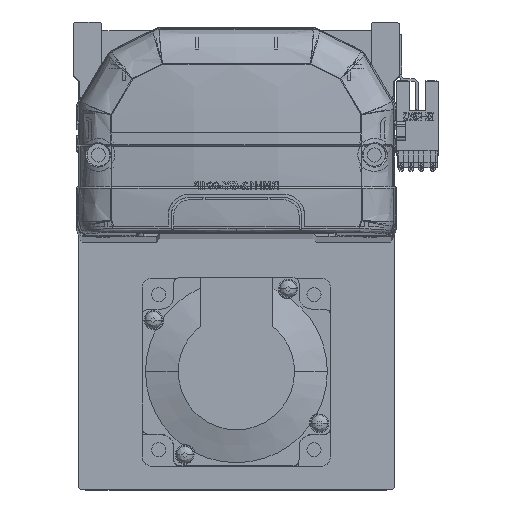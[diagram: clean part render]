
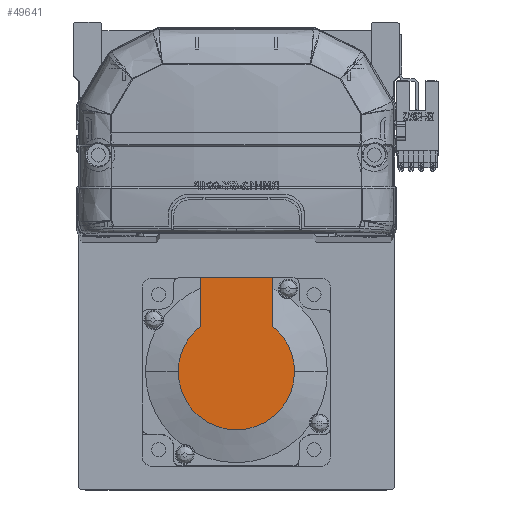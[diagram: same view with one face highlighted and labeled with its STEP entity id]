
A CAD part, top view. The second image highlights one B-rep face of the part: STEP entity #49641.
In plain terms, the highlighted planar face has unit normal (0, 0, 1) as drawn and (-1, 0, 0) by its records, which use the part's own axes.
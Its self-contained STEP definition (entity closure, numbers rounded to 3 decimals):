
#1785 = ORIENTED_EDGE ( 'NONE', *, *, #17128, .T. ) ;
#2126 = CARTESIAN_POINT ( 'NONE',  ( -79., -9.269, 0. ) ) ;
#2659 = DIRECTION ( 'NONE',  ( -1., 0., 0. ) ) ;
#2916 = AXIS2_PLACEMENT_3D ( 'NONE', #3430, #22628, #55669 ) ;
#3430 = CARTESIAN_POINT ( 'NONE',  ( -79., 0., 0. ) ) ;
#3459 = AXIS2_PLACEMENT_3D ( 'NONE', #16035, #6705, #20563 ) ;
#3789 = ORIENTED_EDGE ( 'NONE', *, *, #39048, .F. ) ;
#4356 = EDGE_CURVE ( 'NONE', #34769, #39037, #40740, .T. ) ;
#6705 = DIRECTION ( 'NONE',  ( -1., 0., 0. ) ) ;
#6758 = EDGE_CURVE ( 'NONE', #39037, #50709, #39900, .T. ) ;
#6985 = CARTESIAN_POINT ( 'NONE',  ( -79., 0., 0. ) ) ;
#7900 = FACE_OUTER_BOUND ( 'NONE', #49686, .T. ) ;
#8332 = EDGE_CURVE ( 'NONE', #14366, #18596, #46420, .T. ) ;
#10855 = CARTESIAN_POINT ( 'NONE',  ( -79., 0., 18.538 ) ) ;
#14149 = ORIENTED_EDGE ( 'NONE', *, *, #8332, .T. ) ;
#14366 = VERTEX_POINT ( 'NONE', #10855 ) ;
#16035 = CARTESIAN_POINT ( 'NONE',  ( -79., 0., 0. ) ) ;
#17048 = CARTESIAN_POINT ( 'NONE',  ( -79., 30., 27. ) ) ;
#17128 = EDGE_CURVE ( 'NONE', #50709, #14366, #28308, .T. ) ;
#18596 = VERTEX_POINT ( 'NONE', #28845 ) ;
#19253 = ORIENTED_EDGE ( 'NONE', *, *, #6758, .T. ) ;
#19745 = DIRECTION ( 'NONE',  ( 0., -1., 0. ) ) ;
#20512 = PLANE ( 'NONE',  #57892 ) ;
#20563 = DIRECTION ( 'NONE',  ( 0., 0., -1. ) ) ;
#21328 = DIRECTION ( 'NONE',  ( 0., 0., 1. ) ) ;
#22300 = VECTOR ( 'NONE', #19745, 1000. ) ;
#22628 = DIRECTION ( 'NONE',  ( -1., 0., 0. ) ) ;
#25585 = VERTEX_POINT ( 'NONE', #41224 ) ;
#26317 = CARTESIAN_POINT ( 'NONE',  ( -79., 14.579, -11.45 ) ) ;
#26411 = DIRECTION ( 'NONE',  ( 0., 0., -1. ) ) ;
#26512 = DIRECTION ( 'NONE',  ( 0., 0., 1. ) ) ;
#28308 = CIRCLE ( 'NONE', #2916, 18.538 ) ;
#28845 = CARTESIAN_POINT ( 'NONE',  ( -79., 14.579, 11.45 ) ) ;
#33178 = AXIS2_PLACEMENT_3D ( 'NONE', #6985, #2659, #26411 ) ;
#33294 = LINE ( 'NONE', #57548, #59138 ) ;
#33761 = CARTESIAN_POINT ( 'NONE',  ( -79., -9.269, -11.45 ) ) ;
#34493 = ORIENTED_EDGE ( 'NONE', *, *, #41106, .F. ) ;
#34769 = VERTEX_POINT ( 'NONE', #47865 ) ;
#35193 = DIRECTION ( 'NONE',  ( 0., -1., 0. ) ) ;
#39037 = VERTEX_POINT ( 'NONE', #26317 ) ;
#39048 = EDGE_CURVE ( 'NONE', #34769, #25585, #44441, .T. ) ;
#39900 = CIRCLE ( 'NONE', #3459, 18.538 ) ;
#40740 = LINE ( 'NONE', #33761, #22300 ) ;
#41106 = EDGE_CURVE ( 'NONE', #25585, #18596, #33294, .T. ) ;
#41224 = CARTESIAN_POINT ( 'NONE',  ( -79., 30., 11.45 ) ) ;
#41588 = CARTESIAN_POINT ( 'NONE',  ( -79., 0., -18.538 ) ) ;
#42977 = VECTOR ( 'NONE', #26512, 1000. ) ;
#44441 = LINE ( 'NONE', #17048, #42977 ) ;
#46420 = CIRCLE ( 'NONE', #33178, 18.538 ) ;
#47470 = ORIENTED_EDGE ( 'NONE', *, *, #4356, .T. ) ;
#47865 = CARTESIAN_POINT ( 'NONE',  ( -79., 30., -11.45 ) ) ;
#49641 = ADVANCED_FACE ( 'NONE', ( #7900 ), #20512, .T. ) ;
#49686 = EDGE_LOOP ( 'NONE', ( #47470, #19253, #1785, #14149, #34493, #3789 ) ) ;
#50709 = VERTEX_POINT ( 'NONE', #41588 ) ;
#54155 = DIRECTION ( 'NONE',  ( -1., 0., 0. ) ) ;
#55669 = DIRECTION ( 'NONE',  ( 0., 0., -1. ) ) ;
#57548 = CARTESIAN_POINT ( 'NONE',  ( -79., 0., 11.45 ) ) ;
#57892 = AXIS2_PLACEMENT_3D ( 'NONE', #2126, #54155, #21328 ) ;
#59138 = VECTOR ( 'NONE', #35193, 1000. ) ;
